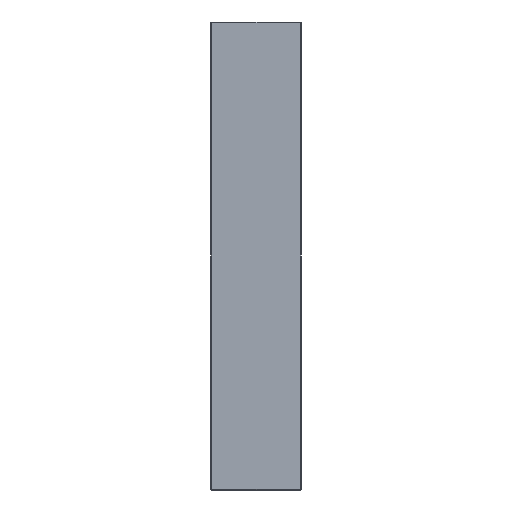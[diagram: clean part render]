
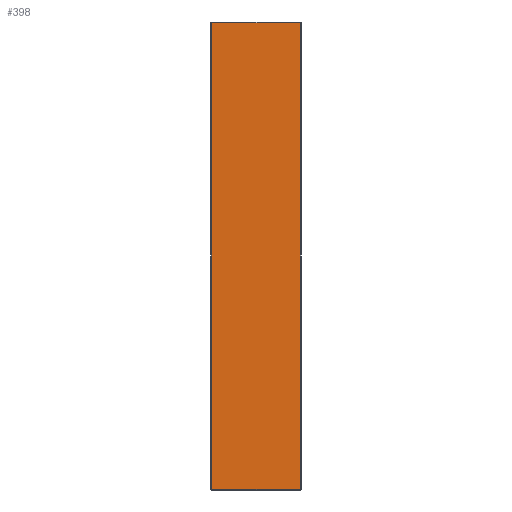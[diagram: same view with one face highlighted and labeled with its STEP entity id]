
A CAD part, left-side view. The second image highlights one B-rep face of the part: STEP entity #398.
In plain terms, the highlighted planar face has unit normal (-1, 0, 0).
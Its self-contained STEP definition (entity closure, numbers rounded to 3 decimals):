
#3 = EDGE_CURVE ( 'NONE', #753, #543, #2090, .T. ) ;
#78 = CARTESIAN_POINT ( 'NONE',  ( -198., 1., -247. ) ) ;
#134 = CARTESIAN_POINT ( 'NONE',  ( -198., 95., 247. ) ) ;
#136 = EDGE_CURVE ( 'NONE', #1849, #2129, #1188, .T. ) ;
#240 = VECTOR ( 'NONE', #868, 1000. ) ;
#282 = CARTESIAN_POINT ( 'NONE',  ( -198., 1., 247. ) ) ;
#338 = CARTESIAN_POINT ( 'NONE',  ( -198., 96., -247. ) ) ;
#398 = ADVANCED_FACE ( 'NONE', ( #2293 ), #695, .F. ) ;
#543 = VERTEX_POINT ( 'NONE', #134 ) ;
#580 = EDGE_LOOP ( 'NONE', ( #1856, #710, #2144, #1147 ) ) ;
#695 = PLANE ( 'NONE',  #983 ) ;
#710 = ORIENTED_EDGE ( 'NONE', *, *, #990, .T. ) ;
#753 = VERTEX_POINT ( 'NONE', #282 ) ;
#770 = LINE ( 'NONE', #906, #240 ) ;
#796 = DIRECTION ( 'NONE',  ( 0., 1., 0. ) ) ;
#815 = CARTESIAN_POINT ( 'NONE',  ( -198., 95., -247. ) ) ;
#821 = EDGE_CURVE ( 'NONE', #2129, #753, #1607, .T. ) ;
#868 = DIRECTION ( 'NONE',  ( 0., 0., -1. ) ) ;
#906 = CARTESIAN_POINT ( 'NONE',  ( -198., 95., 248. ) ) ;
#983 = AXIS2_PLACEMENT_3D ( 'NONE', #2307, #2255, #2285 ) ;
#990 = EDGE_CURVE ( 'NONE', #543, #1849, #770, .T. ) ;
#1147 = ORIENTED_EDGE ( 'NONE', *, *, #821, .T. ) ;
#1188 = LINE ( 'NONE', #338, #1613 ) ;
#1554 = VECTOR ( 'NONE', #796, 1000. ) ;
#1607 = LINE ( 'NONE', #1859, #2148 ) ;
#1613 = VECTOR ( 'NONE', #1833, 1000. ) ;
#1833 = DIRECTION ( 'NONE',  ( 0., -1., 0. ) ) ;
#1849 = VERTEX_POINT ( 'NONE', #815 ) ;
#1856 = ORIENTED_EDGE ( 'NONE', *, *, #3, .T. ) ;
#1859 = CARTESIAN_POINT ( 'NONE',  ( -198., 1., 248. ) ) ;
#1928 = DIRECTION ( 'NONE',  ( 0., 0., 1. ) ) ;
#2090 = LINE ( 'NONE', #2364, #1554 ) ;
#2129 = VERTEX_POINT ( 'NONE', #78 ) ;
#2144 = ORIENTED_EDGE ( 'NONE', *, *, #136, .T. ) ;
#2148 = VECTOR ( 'NONE', #1928, 1000. ) ;
#2255 = DIRECTION ( 'NONE',  ( 1., 0., 0. ) ) ;
#2285 = DIRECTION ( 'NONE',  ( 0., 0., -1. ) ) ;
#2293 = FACE_OUTER_BOUND ( 'NONE', #580, .T. ) ;
#2307 = CARTESIAN_POINT ( 'NONE',  ( -198., 96., 248. ) ) ;
#2364 = CARTESIAN_POINT ( 'NONE',  ( -198., 96., 247. ) ) ;
